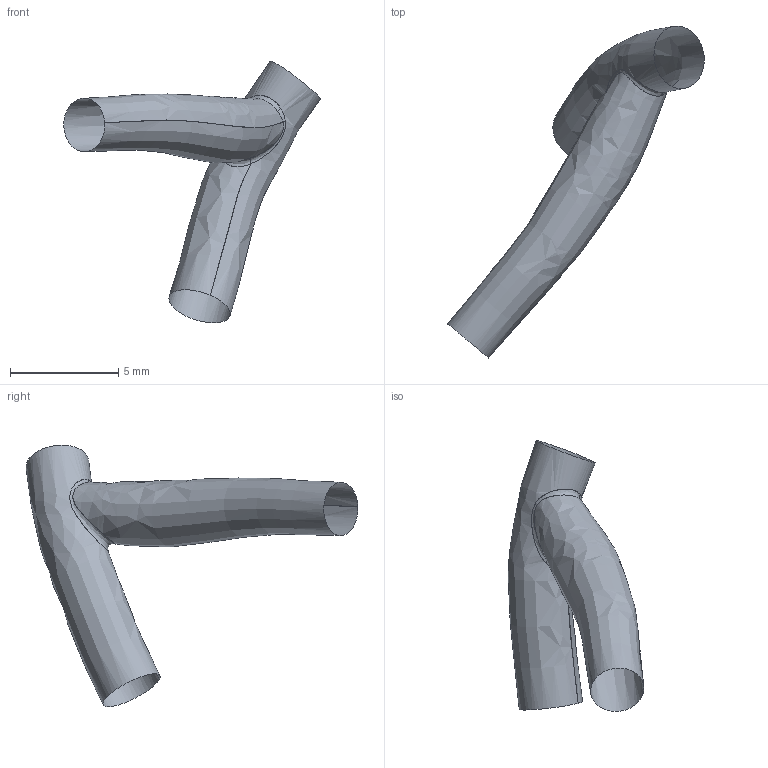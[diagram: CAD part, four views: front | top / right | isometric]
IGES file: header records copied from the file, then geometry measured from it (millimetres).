
Global section: file name: C:\Documents and Settings\Administrator\Desktop\FDA-Pig\Domestic LCA\Pig_000137\lcx.es.igs; native system: Rhinoceros ( May 19 2006 ); preprocessor: Trout Lake IGES 012 May 19 2006; date: 111205.184156; units: centimetre
Bounding box: 11.84 x 15.32 x 12.08 mm (x, y, z)
Surface area: 226.4 mm2 (no closed solid volume)
Topology: 0 solids, 0 shells, 5 faces, 54 edges, 53 vertices
Faces by surface type: bspline 5
